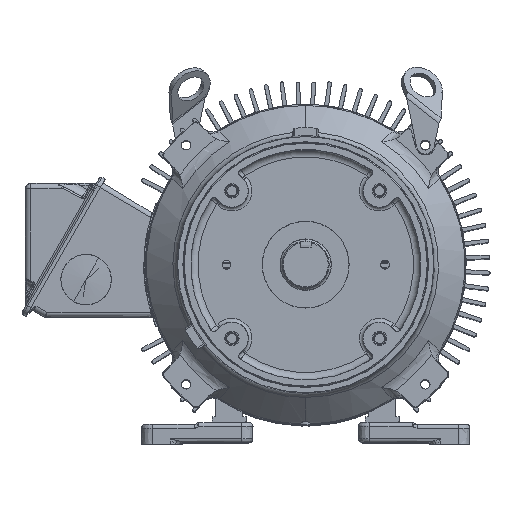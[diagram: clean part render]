
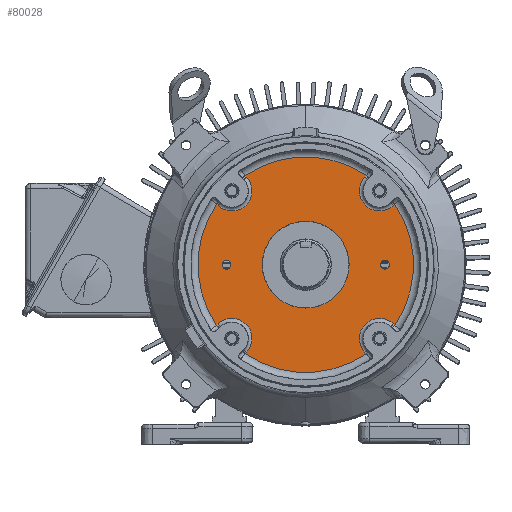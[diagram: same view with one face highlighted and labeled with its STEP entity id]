
A CAD part, top view. The second image highlights one B-rep face of the part: STEP entity #80028.
In plain terms, the highlighted planar face has unit normal (0, 0, 1) as drawn and (0, 0, -1) by its records, which use the part's own axes.
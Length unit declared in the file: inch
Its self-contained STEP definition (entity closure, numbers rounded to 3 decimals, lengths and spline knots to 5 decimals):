
#73184=CARTESIAN_POINT('',(0.,0.,-2.266));
#73185=DIRECTION('',(0.,0.,-1.));
#73186=DIRECTION('',(-0.827,-0.563,0.));
#73187=AXIS2_PLACEMENT_3D('',#73184,#73185,#73186);
#73199=CARTESIAN_POINT('',(0.,0.,-2.266));
#73200=DIRECTION('',(0.,0.,-1.));
#73201=DIRECTION('',(0.563,-0.827,0.));
#73202=AXIS2_PLACEMENT_3D('',#73199,#73200,#73201);
#73204=CARTESIAN_POINT('',(0.,0.,-2.266));
#73205=DIRECTION('',(0.,0.,-1.));
#73206=DIRECTION('',(-0.563,0.827,0.));
#73207=AXIS2_PLACEMENT_3D('',#73204,#73205,#73206);
#73214=CARTESIAN_POINT('',(0.,0.,-2.266));
#73215=DIRECTION('',(0.,0.,-1.));
#73216=DIRECTION('',(0.827,0.563,0.));
#73217=AXIS2_PLACEMENT_3D('',#73214,#73215,#73216);
#73239=CARTESIAN_POINT('',(-3.09494,-2.10574,
-2.266));
#73258=DIRECTION('',(-0.725,-0.688,0.));
#73259=VECTOR('',#73258,0.07073);
#73260=CARTESIAN_POINT('',(-3.04364,-2.05705,-2.266));
#73261=LINE('',#73260,#73259);
#73272=CARTESIAN_POINT('',(-2.56326,-2.56326,-2.266));
#73273=DIRECTION('',(0.,0.,1.));
#73274=DIRECTION('',(0.725,-0.688,0.));
#73275=AXIS2_PLACEMENT_3D('',#73272,#73273,#73274);
#73286=DIRECTION('',(0.688,0.725,0.));
#73287=VECTOR('',#73286,0.07073);
#73288=CARTESIAN_POINT('',(-2.10574,-3.09494,
-2.266));
#73289=LINE('',#73288,#73287);
#73290=CARTESIAN_POINT('',(2.75,0.,-2.266));
#73291=DIRECTION('',(0.,0.,1.));
#73292=DIRECTION('',(1.,0.,0.));
#73293=AXIS2_PLACEMENT_3D('',#73290,#73291,#73292);
#73295=CARTESIAN_POINT('',(2.75,0.,-2.266));
#73296=DIRECTION('',(0.,0.,1.));
#73297=DIRECTION('',(-1.,0.,0.));
#73298=AXIS2_PLACEMENT_3D('',#73295,#73296,#73297);
#73300=CARTESIAN_POINT('',(-2.75,0.,-2.266));
#73301=DIRECTION('',(0.,0.,1.));
#73302=DIRECTION('',(-1.,0.,0.));
#73303=AXIS2_PLACEMENT_3D('',#73300,#73301,#73302);
#73305=CARTESIAN_POINT('',(-2.75,0.,-2.266));
#73306=DIRECTION('',(0.,0.,1.));
#73307=DIRECTION('',(1.,0.,0.));
#73308=AXIS2_PLACEMENT_3D('',#73305,#73306,#73307);
#73318=CARTESIAN_POINT('',(0.,0.,-2.266));
#73319=DIRECTION('',(0.,0.,-1.));
#73320=DIRECTION('',(0.,1.,0.));
#73321=AXIS2_PLACEMENT_3D('',#73318,#73319,#73320);
#73323=CARTESIAN_POINT('',(0.,0.,-2.266));
#73324=DIRECTION('',(0.,0.,1.));
#73325=DIRECTION('',(0.,1.,0.));
#73326=AXIS2_PLACEMENT_3D('',#73323,#73324,#73325);
#75957=DIRECTION('',(0.688,-0.725,0.));
#75958=VECTOR('',#75957,0.07073);
#75959=CARTESIAN_POINT('',(2.05705,-3.04364,-2.266));
#75960=LINE('',#75959,#75958);
#76021=CARTESIAN_POINT('',(3.09494,-2.10574,
-2.266));
#76032=DIRECTION('',(-0.725,0.688,0.));
#76033=VECTOR('',#76032,0.07073);
#76034=CARTESIAN_POINT('',(3.09494,-2.10574,
-2.266));
#76035=LINE('',#76034,#76033);
#76046=CARTESIAN_POINT('',(2.56326,-2.56326,-2.266));
#76047=DIRECTION('',(0.,0.,1.));
#76048=DIRECTION('',(0.688,0.725,0.));
#76049=AXIS2_PLACEMENT_3D('',#76046,#76047,#76048);
#76111=DIRECTION('',(0.725,0.688,0.));
#76112=VECTOR('',#76111,0.07073);
#76113=CARTESIAN_POINT('',(3.04364,2.05705,-2.266));
#76114=LINE('',#76113,#76112);
#76175=CARTESIAN_POINT('',(2.10574,3.09494,
-2.266));
#76186=DIRECTION('',(-0.688,-0.725,0.));
#76187=VECTOR('',#76186,0.07073);
#76188=CARTESIAN_POINT('',(2.10574,3.09494,
-2.266));
#76189=LINE('',#76188,#76187);
#76200=CARTESIAN_POINT('',(2.56326,2.56326,-2.266));
#76201=DIRECTION('',(0.,0.,1.));
#76202=DIRECTION('',(-0.725,0.688,0.));
#76203=AXIS2_PLACEMENT_3D('',#76200,#76201,#76202);
#76265=DIRECTION('',(-0.688,0.725,0.));
#76266=VECTOR('',#76265,0.07073);
#76267=CARTESIAN_POINT('',(-2.05705,3.04364,-2.266));
#76268=LINE('',#76267,#76266);
#76338=CARTESIAN_POINT('',(-2.56326,2.56326,-2.266));
#76339=DIRECTION('',(0.,0.,1.));
#76340=DIRECTION('',(-0.688,-0.725,0.));
#76341=AXIS2_PLACEMENT_3D('',#76338,#76339,#76340);
#76352=DIRECTION('',(0.725,-0.688,0.));
#76353=VECTOR('',#76352,0.07073);
#76354=CARTESIAN_POINT('',(-3.09494,2.10574,
-2.266));
#76355=LINE('',#76354,#76353);
#76379=CARTESIAN_POINT('',(-3.09494,2.10574,
-2.266));
#77902=VERTEX_POINT('',#73239);
#77906=CARTESIAN_POINT('',(-3.04364,-2.05705,-2.266));
#77907=VERTEX_POINT('',#77906);
#77910=CARTESIAN_POINT('',(-2.05705,-3.04364,-2.266));
#77911=VERTEX_POINT('',#77910);
#77914=CARTESIAN_POINT('',(-2.10574,-3.09494,
-2.266));
#77915=VERTEX_POINT('',#77914);
#77921=VERTEX_POINT('',#76379);
#77924=CARTESIAN_POINT('',(-3.04364,2.05705,-2.266));
#77925=VERTEX_POINT('',#77924);
#77928=CARTESIAN_POINT('',(-2.05705,3.04364,-2.266));
#77929=VERTEX_POINT('',#77928);
#77932=CARTESIAN_POINT('',(-2.10574,3.09494,
-2.266));
#77933=VERTEX_POINT('',#77932);
#77939=VERTEX_POINT('',#76175);
#77942=CARTESIAN_POINT('',(2.05705,3.04364,-2.266));
#77943=VERTEX_POINT('',#77942);
#77946=CARTESIAN_POINT('',(3.04364,2.05705,-2.266));
#77947=VERTEX_POINT('',#77946);
#77950=CARTESIAN_POINT('',(3.09494,2.10574,
-2.266));
#77951=VERTEX_POINT('',#77950);
#77957=VERTEX_POINT('',#76021);
#77960=CARTESIAN_POINT('',(3.04364,-2.05705,-2.266));
#77961=VERTEX_POINT('',#77960);
#77964=CARTESIAN_POINT('',(2.05705,-3.04364,-2.266));
#77965=VERTEX_POINT('',#77964);
#77968=CARTESIAN_POINT('',(2.10574,-3.09494,
-2.266));
#77969=VERTEX_POINT('',#77968);
#78142=CARTESIAN_POINT('',(2.9055,0.,-2.266));
#78143=CARTESIAN_POINT('',(2.5945,0.,-2.266));
#78144=VERTEX_POINT('',#78142);
#78145=VERTEX_POINT('',#78143);
#78146=CARTESIAN_POINT('',(-2.9055,0.,-2.266));
#78147=CARTESIAN_POINT('',(-2.5945,0.,-2.266));
#78148=VERTEX_POINT('',#78146);
#78149=VERTEX_POINT('',#78147);
#78329=CARTESIAN_POINT('',(0.,1.5075,-2.266));
#78331=VERTEX_POINT('',#78329);
#78333=CARTESIAN_POINT('',(0.,-1.5075,-2.266));
#78335=VERTEX_POINT('',#78333);
#79978=CARTESIAN_POINT('',(0.,0.,-2.266));
#79979=DIRECTION('',(0.,0.,1.));
#79980=DIRECTION('',(0.,1.,0.));
#79981=AXIS2_PLACEMENT_3D('',#79978,#79979,#79980);
#79982=PLANE('',#79981);
#79983=ORIENTED_EDGE('',*,*,#79945,.F.);
#79984=ORIENTED_EDGE('',*,*,#79959,.F.);
#79985=ORIENTED_EDGE('',*,*,#79972,.F.);
#79986=ORIENTED_EDGE('',*,*,#79853,.F.);
#79988=ORIENTED_EDGE('',*,*,#79987,.F.);
#79990=ORIENTED_EDGE('',*,*,#79989,.F.);
#79992=ORIENTED_EDGE('',*,*,#79991,.F.);
#79993=ORIENTED_EDGE('',*,*,#79880,.F.);
#79995=ORIENTED_EDGE('',*,*,#79994,.F.);
#79997=ORIENTED_EDGE('',*,*,#79996,.F.);
#79999=ORIENTED_EDGE('',*,*,#79998,.F.);
#80000=ORIENTED_EDGE('',*,*,#79865,.F.);
#80002=ORIENTED_EDGE('',*,*,#80001,.F.);
#80004=ORIENTED_EDGE('',*,*,#80003,.F.);
#80006=ORIENTED_EDGE('',*,*,#80005,.F.);
#80007=ORIENTED_EDGE('',*,*,#79836,.F.);
#80008=EDGE_LOOP('',(#79983,#79984,#79985,#79986,#79988,#79990,#79992,#79993,
#79995,#79997,#79999,#80000,#80002,#80004,#80006,#80007));
#80009=FACE_OUTER_BOUND('',#80008,.F.);
#80011=ORIENTED_EDGE('',*,*,#80010,.F.);
#80013=ORIENTED_EDGE('',*,*,#80012,.F.);
#80014=EDGE_LOOP('',(#80011,#80013));
#80015=FACE_BOUND('',#80014,.F.);
#80017=ORIENTED_EDGE('',*,*,#80016,.F.);
#80019=ORIENTED_EDGE('',*,*,#80018,.F.);
#80020=EDGE_LOOP('',(#80017,#80019));
#80021=FACE_BOUND('',#80020,.F.);
#80023=ORIENTED_EDGE('',*,*,#80022,.T.);
#80025=ORIENTED_EDGE('',*,*,#80024,.F.);
#80026=EDGE_LOOP('',(#80023,#80025));
#80027=FACE_BOUND('',#80026,.F.);
#80028=ADVANCED_FACE('',(#80009,#80015,#80021,#80027),#79982,.F.);
#73188=CIRCLE('',#73187,3.74337);
#73203=CIRCLE('',#73202,3.74337);
#73208=CIRCLE('',#73207,3.74337);
#73218=CIRCLE('',#73217,3.74337);
#73276=CIRCLE('',#73275,0.69786);
#73294=CIRCLE('',#73293,0.1555);
#73299=CIRCLE('',#73298,0.1555);
#73304=CIRCLE('',#73303,0.1555);
#73309=CIRCLE('',#73308,0.1555);
#73322=CIRCLE('',#73321,1.5075);
#73327=CIRCLE('',#73326,1.5075);
#76050=CIRCLE('',#76049,0.69786);
#76204=CIRCLE('',#76203,0.69786);
#76342=CIRCLE('',#76341,0.69786);
#79836=EDGE_CURVE('',#77902,#77921,#73188,.T.);
#79853=EDGE_CURVE('',#77969,#77915,#73203,.T.);
#79865=EDGE_CURVE('',#77933,#77939,#73208,.T.);
#79880=EDGE_CURVE('',#77951,#77957,#73218,.T.);
#79945=EDGE_CURVE('',#77907,#77902,#73261,.T.);
#79959=EDGE_CURVE('',#77911,#77907,#73276,.T.);
#79972=EDGE_CURVE('',#77915,#77911,#73289,.T.);
#79987=EDGE_CURVE('',#77965,#77969,#75960,.T.);
#79989=EDGE_CURVE('',#77961,#77965,#76050,.T.);
#79991=EDGE_CURVE('',#77957,#77961,#76035,.T.);
#79994=EDGE_CURVE('',#77947,#77951,#76114,.T.);
#79996=EDGE_CURVE('',#77943,#77947,#76204,.T.);
#79998=EDGE_CURVE('',#77939,#77943,#76189,.T.);
#80001=EDGE_CURVE('',#77929,#77933,#76268,.T.);
#80003=EDGE_CURVE('',#77925,#77929,#76342,.T.);
#80005=EDGE_CURVE('',#77921,#77925,#76355,.T.);
#80010=EDGE_CURVE('',#78144,#78145,#73294,.T.);
#80012=EDGE_CURVE('',#78145,#78144,#73299,.T.);
#80016=EDGE_CURVE('',#78148,#78149,#73304,.T.);
#80018=EDGE_CURVE('',#78149,#78148,#73309,.T.);
#80022=EDGE_CURVE('',#78331,#78335,#73322,.T.);
#80024=EDGE_CURVE('',#78331,#78335,#73327,.T.);
